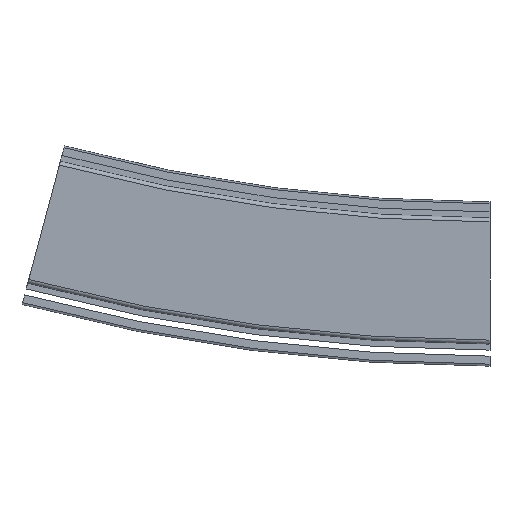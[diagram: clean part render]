
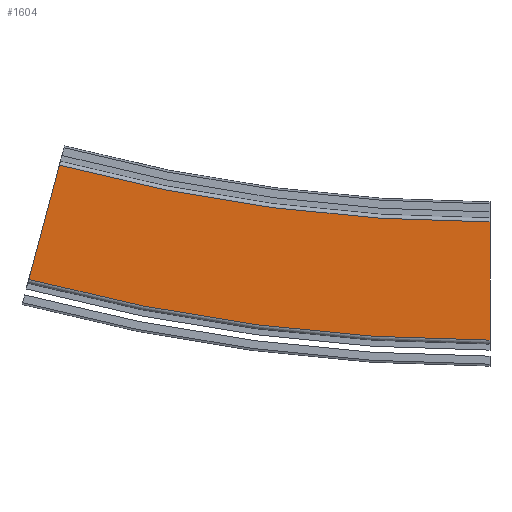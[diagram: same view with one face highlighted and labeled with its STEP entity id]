
A CAD part, front view. The second image highlights one B-rep face of the part: STEP entity #1604.
In plain terms, the highlighted planar face has unit normal (0, -1, 0).
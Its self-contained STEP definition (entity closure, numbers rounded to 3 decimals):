
#140=PLANE('',#1768);
#227=FACE_OUTER_BOUND('',#319,.T.);
#319=EDGE_LOOP('',(#1408,#1409,#1410,#1411));
#361=CIRCLE('',#1715,830.5);
#380=CIRCLE('',#1751,889.5);
#512=LINE('',#7343,#638);
#513=LINE('',#7344,#639);
#638=VECTOR('',#2170,10.);
#639=VECTOR('',#2171,10.);
#748=VERTEX_POINT('',#7193);
#749=VERTEX_POINT('',#7195);
#780=VERTEX_POINT('',#7292);
#782=VERTEX_POINT('',#7295);
#955=EDGE_CURVE('',#748,#749,#361,.T.);
#1004=EDGE_CURVE('',#780,#782,#380,.T.);
#1028=EDGE_CURVE('',#748,#780,#512,.T.);
#1029=EDGE_CURVE('',#782,#749,#513,.T.);
#1408=ORIENTED_EDGE('',*,*,#1028,.F.);
#1409=ORIENTED_EDGE('',*,*,#955,.T.);
#1410=ORIENTED_EDGE('',*,*,#1029,.F.);
#1411=ORIENTED_EDGE('',*,*,#1004,.F.);
#1604=ADVANCED_FACE('',(#227),#140,.T.);
#1715=AXIS2_PLACEMENT_3D('',#7197,#2018,#2019);
#1751=AXIS2_PLACEMENT_3D('',#7296,#2120,#2121);
#1768=AXIS2_PLACEMENT_3D('',#7342,#2168,#2169);
#2018=DIRECTION('center_axis',(0.,1.,0.));
#2019=DIRECTION('ref_axis',(0.,0.,-1.));
#2120=DIRECTION('center_axis',(0.,1.,0.));
#2121=DIRECTION('ref_axis',(0.,0.,-1.));
#2168=DIRECTION('center_axis',(0.,-1.,0.));
#2169=DIRECTION('ref_axis',(0.,0.,-1.));
#2170=DIRECTION('',(0.,0.,-1.));
#2171=DIRECTION('',(0.259,0.,0.966));
#7193=CARTESIAN_POINT('',(0.,-73.,29.5));
#7195=CARTESIAN_POINT('',(-214.949,-73.,57.799));
#7197=CARTESIAN_POINT('Origin',(0.,-73.,
860.));
#7292=CARTESIAN_POINT('',(0.,-73.,-29.5));
#7295=CARTESIAN_POINT('',(-230.22,-73.,0.809));
#7296=CARTESIAN_POINT('Origin',(0.,-73.,
860.));
#7342=CARTESIAN_POINT('Origin',(0.,-73.,-5.5));
#7343=CARTESIAN_POINT('',(0.,-73.,5.5));
#7344=CARTESIAN_POINT('',(-224.008,-73.,23.991));
